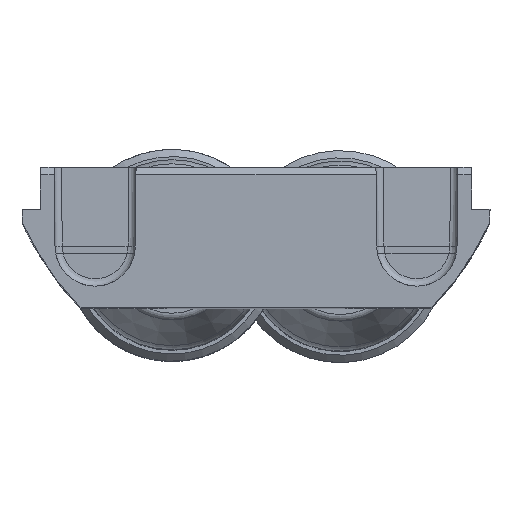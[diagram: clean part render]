
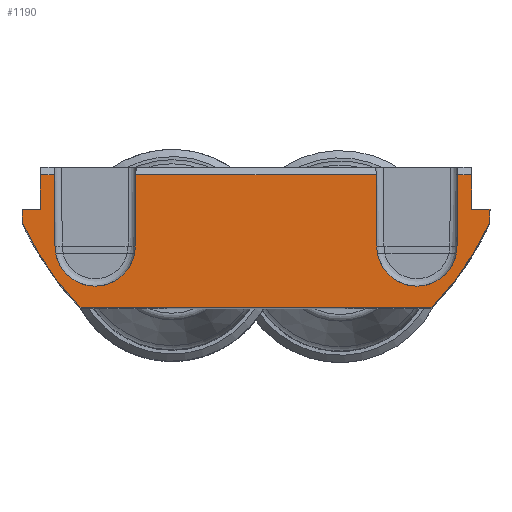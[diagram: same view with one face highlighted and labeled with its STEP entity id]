
A CAD part, top view. The second image highlights one B-rep face of the part: STEP entity #1190.
In plain terms, the highlighted planar face has unit normal (0, 0, 1).
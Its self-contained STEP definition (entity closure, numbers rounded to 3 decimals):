
#1190=ADVANCED_FACE('',(#2025),#1689,.T.);
#1689=PLANE('',#10434);
#2025=FACE_OUTER_BOUND('',#2492,.T.);
#2492=EDGE_LOOP('',(#4532,#4533,#4534,#4535,#4536,#4537,#4538,#4539,#4540,
#4541,#4542,#4543,#4544,#4545,#4546,#4547,#4548,#4549,#4550,#4551,#4552,
#4553));
#3038=CIRCLE('',#10221,0.5);
#3039=CIRCLE('',#10225,0.5);
#3040=CIRCLE('',#10229,0.5);
#3041=CIRCLE('',#10231,0.5);
#3042=CIRCLE('',#10253,2.75);
#3043=CIRCLE('',#10256,2.75);
#3088=CIRCLE('',#10427,20.);
#3089=CIRCLE('',#10431,20.);
#4532=ORIENTED_EDGE('',*,*,#7954,.F.);
#4533=ORIENTED_EDGE('',*,*,#7540,.T.);
#4534=ORIENTED_EDGE('',*,*,#7664,.F.);
#4535=ORIENTED_EDGE('',*,*,#7670,.F.);
#4536=ORIENTED_EDGE('',*,*,#7668,.F.);
#4537=ORIENTED_EDGE('',*,*,#7536,.T.);
#4538=ORIENTED_EDGE('',*,*,#7678,.T.);
#4539=ORIENTED_EDGE('',*,*,#7675,.T.);
#4540=ORIENTED_EDGE('',*,*,#7672,.T.);
#4541=ORIENTED_EDGE('',*,*,#7532,.T.);
#4542=ORIENTED_EDGE('',*,*,#7955,.F.);
#4543=ORIENTED_EDGE('',*,*,#7956,.F.);
#4544=ORIENTED_EDGE('',*,*,#7657,.F.);
#4545=ORIENTED_EDGE('',*,*,#7602,.T.);
#4546=ORIENTED_EDGE('',*,*,#7948,.T.);
#4547=ORIENTED_EDGE('',*,*,#7609,.T.);
#4548=ORIENTED_EDGE('',*,*,#7953,.F.);
#4549=ORIENTED_EDGE('',*,*,#7615,.T.);
#4550=ORIENTED_EDGE('',*,*,#7951,.T.);
#4551=ORIENTED_EDGE('',*,*,#7616,.T.);
#4552=ORIENTED_EDGE('',*,*,#7659,.F.);
#4553=ORIENTED_EDGE('',*,*,#7957,.F.);
#6482=VERTEX_POINT('',#14337);
#6484=VERTEX_POINT('',#14341);
#6486=VERTEX_POINT('',#14346);
#6488=VERTEX_POINT('',#14350);
#6490=VERTEX_POINT('',#14355);
#6492=VERTEX_POINT('',#14359);
#6533=VERTEX_POINT('',#14787);
#6534=VERTEX_POINT('',#14789);
#6537=VERTEX_POINT('',#14799);
#6538=VERTEX_POINT('',#14801);
#6541=VERTEX_POINT('',#14811);
#6542=VERTEX_POINT('',#14813);
#6543=VERTEX_POINT('',#14817);
#6544=VERTEX_POINT('',#14818);
#6580=VERTEX_POINT('',#15058);
#6581=VERTEX_POINT('',#15062);
#6583=VERTEX_POINT('',#15071);
#6584=VERTEX_POINT('',#15077);
#6585=VERTEX_POINT('',#15084);
#6586=VERTEX_POINT('',#15088);
#6746=VERTEX_POINT('',#15708);
#6747=VERTEX_POINT('',#15710);
#7532=EDGE_CURVE('',#6482,#6484,#8918,.T.);
#7536=EDGE_CURVE('',#6486,#6488,#8922,.T.);
#7540=EDGE_CURVE('',#6490,#6492,#8926,.T.);
#7602=EDGE_CURVE('',#6534,#6533,#3038,.T.);
#7609=EDGE_CURVE('',#6537,#6538,#3039,.T.);
#7615=EDGE_CURVE('',#6541,#6542,#3040,.T.);
#7616=EDGE_CURVE('',#6543,#6544,#3041,.T.);
#7657=EDGE_CURVE('',#6534,#6580,#8968,.T.);
#7659=EDGE_CURVE('',#6581,#6544,#8970,.T.);
#7664=EDGE_CURVE('',#6583,#6492,#8975,.T.);
#7668=EDGE_CURVE('',#6486,#6584,#8979,.T.);
#7670=EDGE_CURVE('',#6584,#6583,#3042,.T.);
#7672=EDGE_CURVE('',#6585,#6482,#8982,.T.);
#7675=EDGE_CURVE('',#6586,#6585,#3043,.T.);
#7678=EDGE_CURVE('',#6488,#6586,#8987,.T.);
#7948=EDGE_CURVE('',#6533,#6537,#3088,.T.);
#7951=EDGE_CURVE('',#6542,#6543,#3089,.T.);
#7953=EDGE_CURVE('',#6541,#6538,#9175,.T.);
#7954=EDGE_CURVE('',#6490,#6746,#9176,.T.);
#7955=EDGE_CURVE('',#6747,#6484,#9177,.T.);
#7956=EDGE_CURVE('',#6580,#6747,#9178,.T.);
#7957=EDGE_CURVE('',#6746,#6581,#9179,.T.);
#8918=LINE('',#14342,#9573);
#8922=LINE('',#14351,#9577);
#8926=LINE('',#14360,#9581);
#8968=LINE('',#15057,#9623);
#8970=LINE('',#15061,#9625);
#8975=LINE('',#15070,#9630);
#8979=LINE('',#15076,#9634);
#8982=LINE('',#15083,#9637);
#8987=LINE('',#15094,#9642);
#9175=LINE('',#15705,#9830);
#9176=LINE('',#15707,#9831);
#9177=LINE('',#15709,#9832);
#9178=LINE('',#15711,#9833);
#9179=LINE('',#15712,#9834);
#9573=VECTOR('',#11491,1.);
#9577=VECTOR('',#11497,1.);
#9581=VECTOR('',#11503,1.);
#9623=VECTOR('',#11697,1.);
#9625=VECTOR('',#11701,1.);
#9630=VECTOR('',#11710,1.);
#9634=VECTOR('',#11716,1.);
#9637=VECTOR('',#11725,1.);
#9642=VECTOR('',#11738,1.);
#9830=VECTOR('',#12274,1.);
#9831=VECTOR('',#12277,1.);
#9832=VECTOR('',#12278,1.);
#9833=VECTOR('',#12279,1.);
#9834=VECTOR('',#12280,1.);
#10221=AXIS2_PLACEMENT_3D('',#14788,#11607,#11608);
#10225=AXIS2_PLACEMENT_3D('',#14802,#11620,#11621);
#10229=AXIS2_PLACEMENT_3D('',#14814,#11632,#11633);
#10231=AXIS2_PLACEMENT_3D('',#14816,#11636,#11637);
#10253=AXIS2_PLACEMENT_3D('',#15080,#11720,#11721);
#10256=AXIS2_PLACEMENT_3D('',#15089,#11730,#11731);
#10427=AXIS2_PLACEMENT_3D('',#15698,#12261,#12262);
#10431=AXIS2_PLACEMENT_3D('',#15702,#12269,#12270);
#10434=AXIS2_PLACEMENT_3D('',#15713,#12281,#12282);
#11491=DIRECTION('',(-1.,0.,0.));
#11497=DIRECTION('',(-1.,0.,0.));
#11503=DIRECTION('',(-1.,0.,0.));
#11607=DIRECTION('',(0.,0.,1.));
#11608=DIRECTION('',(1.,0.,0.));
#11620=DIRECTION('',(0.,0.,1.));
#11621=DIRECTION('',(1.,0.,0.));
#11632=DIRECTION('',(0.,0.,1.));
#11633=DIRECTION('',(1.,0.,0.));
#11636=DIRECTION('',(0.,0.,1.));
#11637=DIRECTION('',(1.,0.,0.));
#11697=DIRECTION('',(-0.009,1.,0.));
#11701=DIRECTION('',(-0.009,-1.,0.));
#11710=DIRECTION('',(0.009,1.,0.));
#11716=DIRECTION('',(0.009,-1.,0.));
#11720=DIRECTION('',(0.,0.,1.));
#11721=DIRECTION('',(1.,0.,0.));
#11725=DIRECTION('',(-0.009,1.,0.));
#11730=DIRECTION('',(0.,0.,-1.));
#11731=DIRECTION('',(1.,0.,0.));
#11738=DIRECTION('',(-0.009,-1.,0.));
#12261=DIRECTION('',(0.,0.,1.));
#12262=DIRECTION('',(-1.,0.,0.));
#12269=DIRECTION('',(0.,0.,1.));
#12270=DIRECTION('',(1.,0.,0.));
#12274=DIRECTION('',(-1.,0.,0.));
#12277=DIRECTION('',(0.009,-1.,0.));
#12278=DIRECTION('',(0.009,1.,0.));
#12279=DIRECTION('',(1.,0.,0.));
#12280=DIRECTION('',(1.,0.,0.));
#12281=DIRECTION('',(0.,0.,1.));
#12282=DIRECTION('',(1.,0.,0.));
#14337=CARTESIAN_POINT('',(-13.793,9.125,-3.625));
#14341=CARTESIAN_POINT('',(-14.729,9.125,-3.625));
#14342=CARTESIAN_POINT('',(-2.263,9.125,-3.625));
#14346=CARTESIAN_POINT('',(8.207,9.125,-3.625));
#14350=CARTESIAN_POINT('',(-8.207,9.125,-3.625));
#14351=CARTESIAN_POINT('',(-2.263,9.125,-3.625));
#14355=CARTESIAN_POINT('',(14.729,9.125,-3.625));
#14359=CARTESIAN_POINT('',(13.793,9.125,-3.625));
#14360=CARTESIAN_POINT('',(-2.263,9.125,-3.625));
#14787=CARTESIAN_POINT('',(-15.949,5.805,-3.625));
#14788=CARTESIAN_POINT('',(-15.494,6.011,-3.625));
#14789=CARTESIAN_POINT('',(-15.994,6.007,-3.625));
#14799=CARTESIAN_POINT('',(-12.124,0.178,-3.625));
#14801=CARTESIAN_POINT('',(-11.764,0.025,-3.625));
#14802=CARTESIAN_POINT('',(-11.764,0.525,-3.625));
#14811=CARTESIAN_POINT('',(11.764,0.025,-3.625));
#14813=CARTESIAN_POINT('',(12.124,0.178,-3.625));
#14814=CARTESIAN_POINT('',(11.764,0.525,-3.625));
#14816=CARTESIAN_POINT('',(15.494,6.011,-3.625));
#14817=CARTESIAN_POINT('',(15.949,5.805,-3.625));
#14818=CARTESIAN_POINT('',(15.994,6.007,-3.625));
#15057=CARTESIAN_POINT('',(-16.063,13.951,-3.625));
#15058=CARTESIAN_POINT('',(-16.,6.75,-3.625));
#15061=CARTESIAN_POINT('',(16.062,13.911,-3.625));
#15062=CARTESIAN_POINT('',(16.,6.75,-3.625));
#15070=CARTESIAN_POINT('',(13.75,4.25,-3.625));
#15071=CARTESIAN_POINT('',(13.75,4.25,-3.625));
#15076=CARTESIAN_POINT('',(8.25,4.25,-3.625));
#15077=CARTESIAN_POINT('',(8.25,4.25,-3.625));
#15080=CARTESIAN_POINT('',(11.,4.25,-3.625));
#15083=CARTESIAN_POINT('',(-13.75,4.25,-3.625));
#15084=CARTESIAN_POINT('',(-13.75,4.25,-3.625));
#15088=CARTESIAN_POINT('',(-8.25,4.25,-3.625));
#15089=CARTESIAN_POINT('',(-11.,4.25,-3.625));
#15094=CARTESIAN_POINT('',(-8.25,4.25,-3.625));
#15698=CARTESIAN_POINT('',(2.263,14.071,-3.625));
#15702=CARTESIAN_POINT('',(-2.263,14.071,-3.625));
#15705=CARTESIAN_POINT('',(-11.95,0.025,-3.625));
#15707=CARTESIAN_POINT('',(14.685,14.219,-3.625));
#15708=CARTESIAN_POINT('',(14.75,6.75,-3.625));
#15709=CARTESIAN_POINT('',(-14.685,14.18,-3.625));
#15710=CARTESIAN_POINT('',(-14.75,6.75,-3.625));
#15711=CARTESIAN_POINT('',(-2.263,6.75,-3.625));
#15712=CARTESIAN_POINT('',(-2.263,6.75,-3.625));
#15713=CARTESIAN_POINT('',(-2.263,14.071,-3.625));
